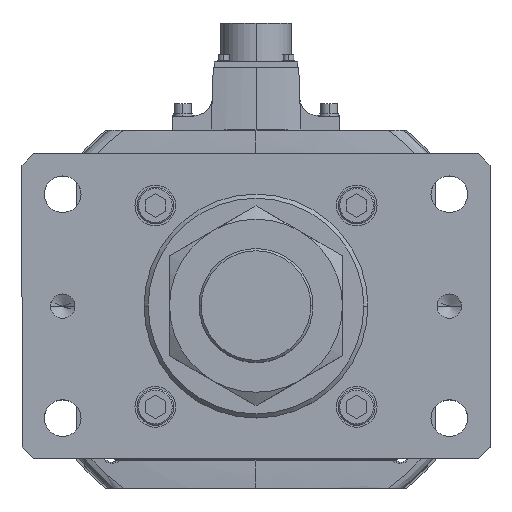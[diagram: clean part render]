
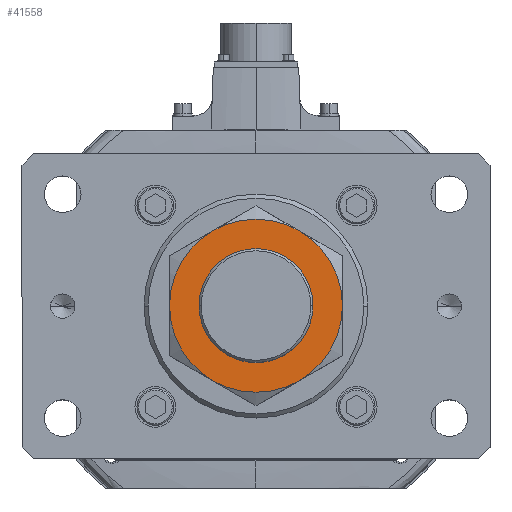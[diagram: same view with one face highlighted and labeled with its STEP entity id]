
A CAD part, top view. The second image highlights one B-rep face of the part: STEP entity #41558.
In plain terms, the highlighted planar face has unit normal (0, 0, 1).
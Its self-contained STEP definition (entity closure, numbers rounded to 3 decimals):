
#1421 = AXIS2_PLACEMENT_3D ( 'NONE', #24877, #11943, #16642 ) ;
#1449 = VERTEX_POINT ( 'NONE', #19024 ) ;
#1815 = AXIS2_PLACEMENT_3D ( 'NONE', #48353, #36069, #27147 ) ;
#1982 = VERTEX_POINT ( 'NONE', #40518 ) ;
#2022 = EDGE_CURVE ( 'NONE', #27547, #52286, #10987, .T. ) ;
#2339 = CIRCLE ( 'NONE', #12915, 42.5 ) ;
#2672 = CARTESIAN_POINT ( 'NONE',  ( 0., 0., 34. ) ) ;
#4186 = CARTESIAN_POINT ( 'NONE',  ( -21.25, -36.806, 34. ) ) ;
#4492 = EDGE_LOOP ( 'NONE', ( #13223, #40962 ) ) ;
#4661 = CARTESIAN_POINT ( 'NONE',  ( 0., 0., 34. ) ) ;
#4729 = CARTESIAN_POINT ( 'NONE',  ( -42.5, 0., 34. ) ) ;
#5119 = AXIS2_PLACEMENT_3D ( 'NONE', #2672, #53980, #41165 ) ;
#7147 = AXIS2_PLACEMENT_3D ( 'NONE', #4661, #30006, #42833 ) ;
#7620 = CARTESIAN_POINT ( 'NONE',  ( 0., 0., 34. ) ) ;
#8641 = CIRCLE ( 'NONE', #30759, 42.5 ) ;
#9133 = ORIENTED_EDGE ( 'NONE', *, *, #39799, .F. ) ;
#10987 = CIRCLE ( 'NONE', #12900, 42.5 ) ;
#11614 = CARTESIAN_POINT ( 'NONE',  ( 0., 0., 34. ) ) ;
#11943 = DIRECTION ( 'NONE',  ( 0., 0., 1. ) ) ;
#12900 = AXIS2_PLACEMENT_3D ( 'NONE', #29159, #20430, #29336 ) ;
#12915 = AXIS2_PLACEMENT_3D ( 'NONE', #43815, #18323, #48094 ) ;
#13223 = ORIENTED_EDGE ( 'NONE', *, *, #26073, .F. ) ;
#13885 = CIRCLE ( 'NONE', #42565, 42.5 ) ;
#16642 = DIRECTION ( 'NONE',  ( 1., 0., 0. ) ) ;
#18323 = DIRECTION ( 'NONE',  ( 0., 0., -1. ) ) ;
#18806 = CIRCLE ( 'NONE', #1421, 28. ) ;
#19024 = CARTESIAN_POINT ( 'NONE',  ( -21.25, 36.806, 34. ) ) ;
#20255 = DIRECTION ( 'NONE',  ( 1., 0., 0. ) ) ;
#20430 = DIRECTION ( 'NONE',  ( 0., 0., -1. ) ) ;
#20983 = EDGE_CURVE ( 'NONE', #50295, #30862, #37614, .T. ) ;
#21923 = EDGE_LOOP ( 'NONE', ( #29249, #50698, #9133, #30099, #46911, #45727 ) ) ;
#23920 = CARTESIAN_POINT ( 'NONE',  ( -28., 0., 34. ) ) ;
#24877 = CARTESIAN_POINT ( 'NONE',  ( 0., 0., 34. ) ) ;
#26073 = EDGE_CURVE ( 'NONE', #49448, #54642, #18806, .T. ) ;
#27147 = DIRECTION ( 'NONE',  ( 1., 0., 0. ) ) ;
#27180 = EDGE_CURVE ( 'NONE', #54642, #49448, #34433, .T. ) ;
#27462 = FACE_OUTER_BOUND ( 'NONE', #21923, .T. ) ;
#27547 = VERTEX_POINT ( 'NONE', #4186 ) ;
#29159 = CARTESIAN_POINT ( 'NONE',  ( 0., 0., 34. ) ) ;
#29249 = ORIENTED_EDGE ( 'NONE', *, *, #20983, .F. ) ;
#29336 = DIRECTION ( 'NONE',  ( 1., 0., 0. ) ) ;
#30006 = DIRECTION ( 'NONE',  ( 0., 0., -1. ) ) ;
#30099 = ORIENTED_EDGE ( 'NONE', *, *, #49750, .F. ) ;
#30759 = AXIS2_PLACEMENT_3D ( 'NONE', #11614, #45709, #20255 ) ;
#30862 = VERTEX_POINT ( 'NONE', #39956 ) ;
#31958 = CARTESIAN_POINT ( 'NONE',  ( 28., 0., 34. ) ) ;
#32610 = DIRECTION ( 'NONE',  ( 0., 0., 1. ) ) ;
#34433 = CIRCLE ( 'NONE', #1815, 28. ) ;
#34525 = CARTESIAN_POINT ( 'NONE',  ( 0., 0., 34. ) ) ;
#35873 = CARTESIAN_POINT ( 'NONE',  ( 42.5, 0., 34. ) ) ;
#36069 = DIRECTION ( 'NONE',  ( 0., 0., 1. ) ) ;
#37614 = CIRCLE ( 'NONE', #5119, 42.5 ) ;
#38975 = DIRECTION ( 'NONE',  ( 0., 0., -1. ) ) ;
#39075 = AXIS2_PLACEMENT_3D ( 'NONE', #7620, #32610, #53604 ) ;
#39799 = EDGE_CURVE ( 'NONE', #1449, #1982, #2339, .T. ) ;
#39956 = CARTESIAN_POINT ( 'NONE',  ( 21.25, -36.806, 34. ) ) ;
#40518 = CARTESIAN_POINT ( 'NONE',  ( 21.25, 36.806, 34. ) ) ;
#40962 = ORIENTED_EDGE ( 'NONE', *, *, #27180, .F. ) ;
#41165 = DIRECTION ( 'NONE',  ( 1., 0., 0. ) ) ;
#41558 = ADVANCED_FACE ( 'NONE', ( #27462, #48784 ), #54339, .T. ) ;
#42565 = AXIS2_PLACEMENT_3D ( 'NONE', #34525, #38975, #47523 ) ;
#42833 = DIRECTION ( 'NONE',  ( 1., 0., 0. ) ) ;
#43815 = CARTESIAN_POINT ( 'NONE',  ( 0., 0., 34. ) ) ;
#45709 = DIRECTION ( 'NONE',  ( 0., 0., -1. ) ) ;
#45727 = ORIENTED_EDGE ( 'NONE', *, *, #47317, .F. ) ;
#46911 = ORIENTED_EDGE ( 'NONE', *, *, #2022, .F. ) ;
#47317 = EDGE_CURVE ( 'NONE', #30862, #27547, #54668, .T. ) ;
#47523 = DIRECTION ( 'NONE',  ( -1., 0., 0. ) ) ;
#48094 = DIRECTION ( 'NONE',  ( 1., 0., 0. ) ) ;
#48353 = CARTESIAN_POINT ( 'NONE',  ( 0., 0., 34. ) ) ;
#48784 = FACE_BOUND ( 'NONE', #4492, .T. ) ;
#48918 = EDGE_CURVE ( 'NONE', #1982, #50295, #8641, .T. ) ;
#49448 = VERTEX_POINT ( 'NONE', #23920 ) ;
#49750 = EDGE_CURVE ( 'NONE', #52286, #1449, #13885, .T. ) ;
#50295 = VERTEX_POINT ( 'NONE', #35873 ) ;
#50698 = ORIENTED_EDGE ( 'NONE', *, *, #48918, .F. ) ;
#52286 = VERTEX_POINT ( 'NONE', #4729 ) ;
#53604 = DIRECTION ( 'NONE',  ( 1., 0., 0. ) ) ;
#53980 = DIRECTION ( 'NONE',  ( 0., 0., -1. ) ) ;
#54339 = PLANE ( 'NONE',  #39075 ) ;
#54642 = VERTEX_POINT ( 'NONE', #31958 ) ;
#54668 = CIRCLE ( 'NONE', #7147, 42.5 ) ;
